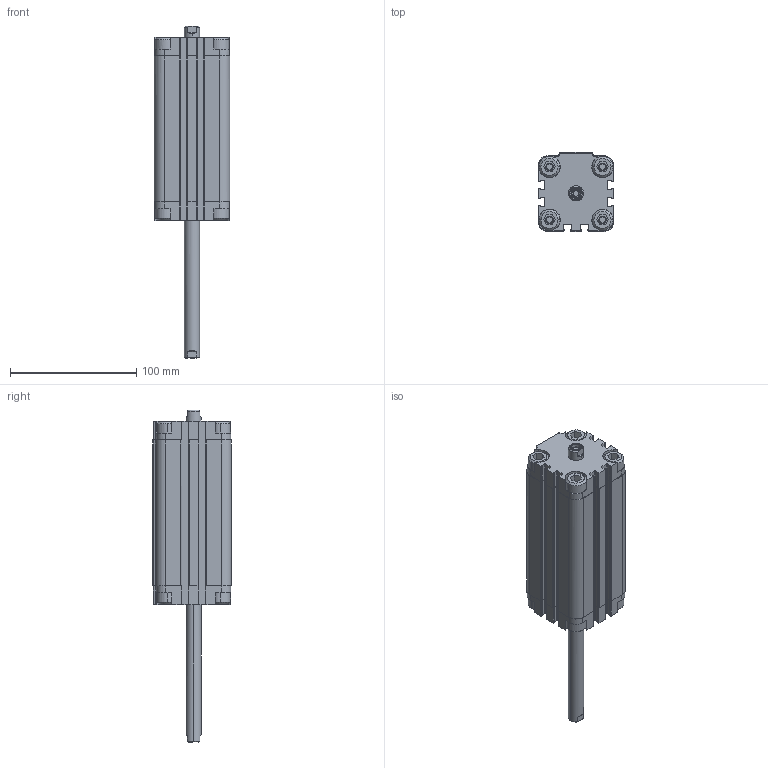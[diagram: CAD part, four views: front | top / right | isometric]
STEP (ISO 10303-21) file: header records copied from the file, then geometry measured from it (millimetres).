
FILE_DESCRIPTION (( 'STEP AP203' ), '1' );
FILE_NAME ('QJ0400100A.step', '2012-10-18T17:16:36', ( '' ), ( '' ), 'SwSTEP 2.0', 'SolidWorks 2012', '' );
FILE_SCHEMA (( 'CONFIG_CONTROL_DESIGN' ));
Length unit declared in the file: millimetre
Products named in the file (1): QJ0400100A
Bounding box: 60 x 62.5 x 263 mm (x, y, z)
Volume: 496451.1 mm3; surface area: 63153.3 mm2
Topology: 1 solids, 1 shells, 604 faces, 1709 edges, 1134 vertices
Faces by surface type: plane 326, cylinder 230, cone 48
Entity records: 22972 total; most frequent: CARTESIAN_POINT 8346, ORIENTED_EDGE 3410, DIRECTION 2431, EDGE_CURVE 1705, VERTEX_POINT 1134, VECTOR 937, LINE 937, AXIS2_PLACEMENT_3D 747
